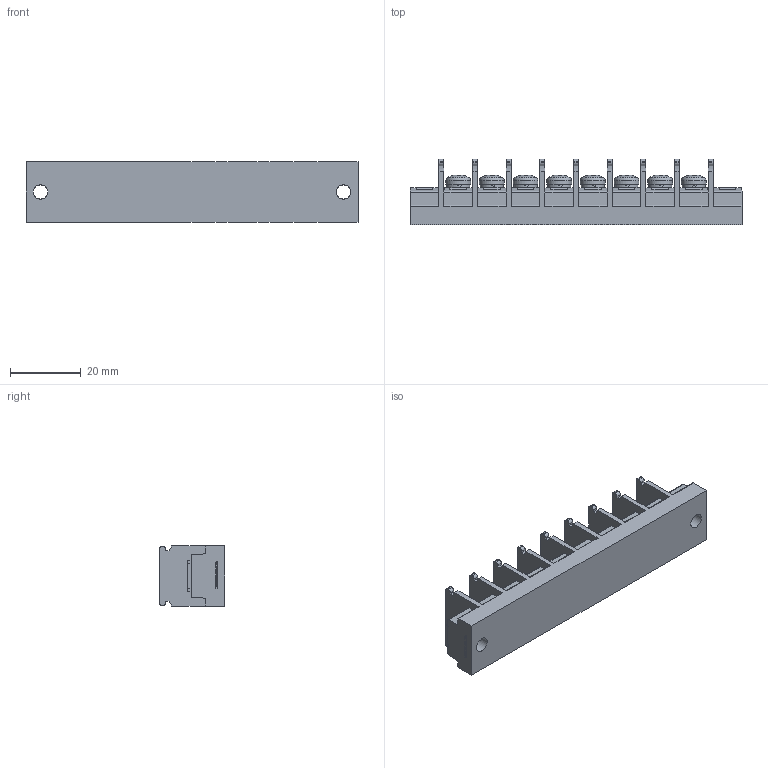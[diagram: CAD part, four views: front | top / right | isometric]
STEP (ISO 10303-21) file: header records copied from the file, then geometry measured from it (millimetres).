
FILE_DESCRIPTION(/* description */ ('Alibre Inc.'),/* implementation_level */ '2;1');
FILE_NAME(/* name */ 'export-EA0D18AE-DBCD-487D-8068-1DE5EE0275B5',/* time_stamp */ '2021-02-02T10:36:14+09:00',/* author */ (''),/* organization */ (''),/* preprocessor_version */ 'ST-DEVELOPER v17',/* originating_system */ 'Alibre',/* authorisation */ '');
FILE_SCHEMA (('CONFIG_CONTROL_DESIGN'));
Length unit declared in the file: millimetre
Bounding box: 93.7 x 18.5 x 17 mm (x, y, z)
Volume: 16396.3 mm3; surface area: 10380.3 mm2
Topology: 1 solids, 9 shells, 1000 faces, 2744 edges, 1822 vertices
Faces by surface type: plane 700, cylinder 132, bspline 104, cone 40, torus 16, sphere 8
Full cylindrical faces by diameter (mm): 4 x18, 4.2 x2, 6.5 x8, 7 x8
Entity records: 30703 total; most frequent: CARTESIAN_POINT 6646, ORIENTED_EDGE 5316, DIRECTION 3998, EDGE_CURVE 2658, VECTOR 1874, LINE 1874, VERTEX_POINT 1788, AXIS2_PLACEMENT_3D 1416
